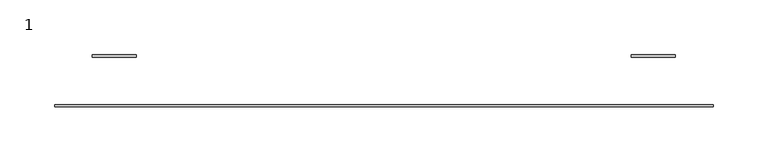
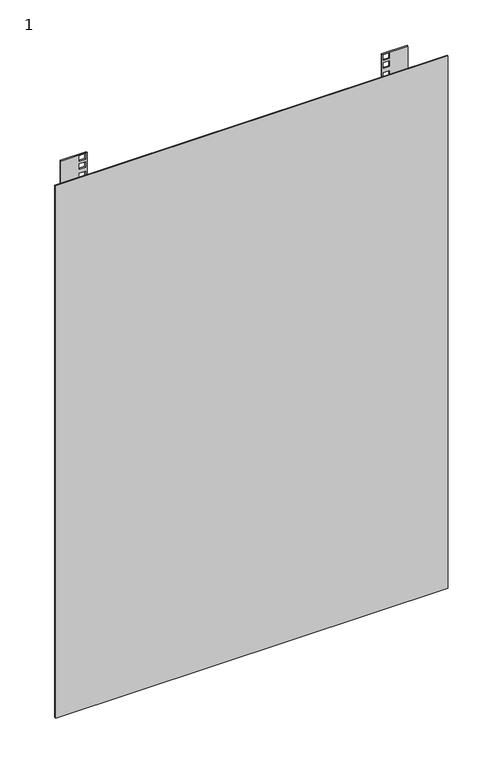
"""IFC4 building model written with IfcOpenShell, lengths in millimetres: proxy geometry, 1 : 18U 600мм металлическая дверь."""

import ifcopenshell
import ifcopenshell.guid

model = None  # the IFC model being written
_history = None  # IfcOwnerHistory: only IFC2X3 demands one
_inside = {}  # id of a spatial element -> (the spatial element, [elements in it])
_under = {}  # id of a project, library or spatial element -> (it, [spatial elements below it])
_declared = {}  # id of a project -> (the project, [libraries it declares])
_typed = {}  # id of a type object -> (the type object, [elements of that type])
_made_of = {}  # id of a material, layer set ... -> (it, [elements and type objects made of it])


def new_model(schema):
    """Start an empty IFC model of exactly this schema.

    Asked for "IFC4X3", IfcOpenShell would pick the latest addendum, in which some entities
    have other attributes; the version numbers below select the first issue.
    IFC2X3 requires an IfcOwnerHistory on every rooted entity: one is made here for all.
    """
    global model, _history
    if schema == "IFC4X3":
        model = ifcopenshell.file(schema_version=(4, 3, 0, 0))
    else:
        model = ifcopenshell.file(schema=schema)
    _inside.clear()
    _under.clear()
    _declared.clear()
    _typed.clear()
    _made_of.clear()
    _history = None
    if model.schema == "IFC2X3":
        org = make("IfcOrganization", Name="unknown")
        user = make(
            "IfcPersonAndOrganization",
            ThePerson=make("IfcPerson", FamilyName="unknown"),
            TheOrganization=org,
        )
        app = make(
            "IfcApplication",
            ApplicationDeveloper=org,
            Version="unknown",
            ApplicationFullName="unknown",
            ApplicationIdentifier="unknown",
        )
        _history = make(
            "IfcOwnerHistory",
            OwningUser=user,
            OwningApplication=app,
            ChangeAction="ADDED",
            CreationDate=0,
        )
    return model


def make(cls, **values):
    """One entity of the class cls with the attributes given. An attribute that is None is left unset."""
    return model.create_entity(
        cls, **{name: value for name, value in values.items() if value is not None}
    )


def rooted(cls, **values):
    """An entity with a GlobalId (a new one), such as an element, a storey or a relation."""
    return make(cls, GlobalId=ifcopenshell.guid.new(), OwnerHistory=_history, **values)


def si_unit(unit_type, name, prefix=None):
    """IfcSIUnit, for example si_unit("LENGTHUNIT", "METRE", prefix="MILLI")."""
    return make("IfcSIUnit", UnitType=unit_type, Prefix=prefix, Name=name)


def assignment(units):
    """IfcUnitAssignment: the units of a project."""
    return None if units is None else make("IfcUnitAssignment", Units=units)


def point(xyz):
    """IfcCartesianPoint."""
    return None if xyz is None else make("IfcCartesianPoint", Coordinates=xyz)


def direction(xyz):
    """IfcDirection."""
    return None if xyz is None else make("IfcDirection", DirectionRatios=xyz)


def frame(location, z_axis=None, x_axis=None):
    """IfcAxis2Placement3D, a coordinate frame: its origin and axes. An axis left out is left unset."""
    return make(
        "IfcAxis2Placement3D",
        Location=point(location),
        Axis=direction(z_axis),
        RefDirection=direction(x_axis),
    )


def origin():
    """The frame at (0, 0, 0) with its axes left unset."""
    return frame((0.0, 0.0, 0.0))


def place(relative_to, where):
    """IfcLocalPlacement: puts the frame where relative to a parent placement (None: the world)."""
    return make(
        "IfcLocalPlacement", PlacementRelTo=relative_to, RelativePlacement=where
    )


def context(
    kind, dimensions, precision=None, world=None, true_north=None, identifier=None
):
    """IfcGeometricRepresentationContext, for example the 3D "Model" context."""
    return make(
        "IfcGeometricRepresentationContext",
        ContextIdentifier=identifier,
        ContextType=kind,
        CoordinateSpaceDimension=dimensions,
        Precision=precision,
        WorldCoordinateSystem=world,
        TrueNorth=true_north,
    )


def project(units=None, contexts=None):
    """IfcProject with its units and contexts."""
    return rooted(
        "IfcProject",
        Name="project",
        RepresentationContexts=contexts,
        UnitsInContext=assignment(units),
    )


def spatial(cls, under=None, at=None, **own):
    """A site, building, storey or space (cls), placed at a placement, below another one or the project."""
    s = rooted(cls, ObjectPlacement=at, **own)
    if under is not None:
        _under.setdefault(under.id(), (under, []))[1].append(s)
    return s


def polyline(points):
    """IfcPolyline through the points."""
    return make("IfcPolyline", Points=[point(p) for p in points])


def outline(outer, holes=None, kind="AREA"):
    """IfcArbitraryClosedProfileDef: a profile drawn as a closed curve; with holes, ...WithVoids."""
    if holes is None:
        return make("IfcArbitraryClosedProfileDef", ProfileType=kind, OuterCurve=outer)
    return make(
        "IfcArbitraryProfileDefWithVoids",
        ProfileType=kind,
        OuterCurve=outer,
        InnerCurves=holes,
    )


def extrude(swept, where, along, depth):
    """IfcExtrudedAreaSolid: the profile swept, set in the frame where, extruded along a direction by depth."""
    return make(
        "IfcExtrudedAreaSolid",
        SweptArea=swept,
        Position=where,
        ExtrudedDirection=direction(along),
        Depth=depth,
    )


def shape(context_of_items, identifier, shape_type, items):
    """IfcShapeRepresentation: the items that make up one representation, for example the "Body"."""
    return make(
        "IfcShapeRepresentation",
        ContextOfItems=context_of_items,
        RepresentationIdentifier=identifier,
        RepresentationType=shape_type,
        Items=items,
    )


def source(mapping_origin, context_of_items, identifier, shape_type, items):
    """IfcRepresentationMap: a shape defined once, which mapped items show again and again."""
    return make(
        "IfcRepresentationMap",
        MappingOrigin=mapping_origin,
        MappedRepresentation=shape(context_of_items, identifier, shape_type, items),
    )


def transform(
    local_origin,
    x_axis=None,
    y_axis=None,
    z_axis=None,
    scale=None,
    scale2=None,
    scale3=None,
    uniform=True,
):
    """IfcCartesianTransformationOperator3D, or its non-uniform kind. x_axis, y_axis, z_axis: its Axis1, 2, 3."""
    if uniform:
        return make(
            "IfcCartesianTransformationOperator3D",
            Axis1=direction(x_axis),
            Axis2=direction(y_axis),
            LocalOrigin=point(local_origin),
            Scale=scale,
            Axis3=direction(z_axis),
        )
    return make(
        "IfcCartesianTransformationOperator3DnonUniform",
        Axis1=direction(x_axis),
        Axis2=direction(y_axis),
        LocalOrigin=point(local_origin),
        Scale=scale,
        Axis3=direction(z_axis),
        Scale2=scale2,
        Scale3=scale3,
    )


def mapped(mapping_source, mapping_target):
    """IfcMappedItem: shows the shape of a source again, moved by a transform."""
    return make(
        "IfcMappedItem", MappingSource=mapping_source, MappingTarget=mapping_target
    )


def made_of(thing, what):
    """Note that an element or type object is made of a material, layer set ...; save() writes the relation."""
    if what is not None:
        _made_of.setdefault(what.id(), (what, []))[1].append(thing)
    return thing


def element(
    cls,
    number,
    at=None,
    inside=None,
    cuts=None,
    type_object=None,
    material=None,
    context=None,
    identifier="Body",
    shape_type=None,
    held_by="IfcProductDefinitionShape",
    body=None,
    shapes=None,
    **own,
):
    """One element of the class cls, such as IfcWall. Its Tag is "e" and its number.

    at: its placement. inside: the storey or other place that contains it. cuts: it is an
    opening in that element (IfcRelVoidsElement). A single representation is given by context,
    identifier, shape_type and body (its items); several are given by shapes. held_by: the class
    of the entity that holds the representations. save() writes the other relations.
    """
    e = rooted(cls, Tag="e%d" % number, ObjectPlacement=at, **own)
    if body is not None:
        shapes = [shape(context, identifier, shape_type, body)]
    if shapes is not None:
        e.Representation = make(held_by, Representations=shapes)
    if inside is not None:
        _inside.setdefault(inside.id(), (inside, []))[1].append(e)
    if cuts is not None:
        rooted(
            "IfcRelVoidsElement", RelatingBuildingElement=cuts, RelatedOpeningElement=e
        )
    if type_object is not None:
        _typed.setdefault(type_object.id(), (type_object, []))[1].append(e)
    return made_of(e, material)


def aggregate(whole, parts):
    """IfcRelAggregates: a whole, such as a stair, and the parts it consists of."""
    return rooted("IfcRelAggregates", RelatingObject=whole, RelatedObjects=parts)


def save(model, path):
    """Write the relations noted so far, then the file.

    IfcRelAggregates (storeys below a building ...), IfcRelContainedInSpatialStructure (elements
    in a storey), IfcRelDefinesByType, IfcRelAssociatesMaterial and IfcRelDeclares: one each for
    every whole, place, type object, material and project.
    """
    for whole, parts in _under.values():
        aggregate(whole, parts)
    for where, things in _inside.values():
        rooted(
            "IfcRelContainedInSpatialStructure",
            RelatedElements=things,
            RelatingStructure=where,
        )
    for kind, things in _typed.values():
        rooted("IfcRelDefinesByType", RelatedObjects=things, RelatingType=kind)
    for what, things in _made_of.values():
        rooted("IfcRelAssociatesMaterial", RelatedObjects=things, RelatingMaterial=what)
    for by, libraries in _declared.values():
        rooted("IfcRelDeclares", RelatingContext=by, RelatedDefinitions=libraries)
    model.write(path)


def proxy_1_bff867b1(model_context):
    return source(origin(), model_context, "Body", "SweptSolid", [
        extrude(outline(polyline([(900.4675, 265.3), (900.4675, 225.3), (20.4675, 225.3), (20.4675, 265.3), (900.4675, 265.3)]), holes=[polyline([(55.0175, 227.55), (55.0175, 237.05), (46.0675, 237.05), (46.0675, 227.55), (55.0175, 227.55)]), polyline([(70.6675, 227.55), (70.6675, 237.05), (61.7175, 237.05), (61.7175, 227.55), (70.6675, 227.55)]), polyline([(86.3175, 227.55), (86.3175, 237.05), (77.3675, 237.05), (77.3675, 227.55), (86.3175, 227.55)]), polyline([(99.4675, 237.05), (90.5175, 237.05), (90.5175, 227.55), (99.4675, 227.55), (99.4675, 237.05)]), polyline([(115.1175, 237.05), (106.1675, 237.05), (106.1675, 227.55), (115.1175, 227.55), (115.1175, 237.05)]), polyline([(130.7675, 237.05), (121.8175, 237.05), (121.8175, 227.55), (130.7675, 227.55), (130.7675, 237.05)]), polyline([(143.9175, 237.05), (134.9675, 237.05), (134.9675, 227.55), (143.9175, 227.55), (143.9175, 237.05)]), polyline([(159.5675, 237.05), (150.6175, 237.05), (150.6175, 227.55), (159.5675, 227.55), (159.5675, 237.05)]), polyline([(175.2175, 237.05), (166.2675, 237.05), (166.2675, 227.55), (175.2175, 227.55), (175.2175, 237.05)]), polyline([(188.3675, 237.05), (179.4175, 237.05), (179.4175, 227.55), (188.3675, 227.55), (188.3675, 237.05)]), polyline([(204.0175, 237.05), (195.0675, 237.05), (195.0675, 227.55), (204.0175, 227.55), (204.0175, 237.05)]), polyline([(219.6675, 237.05), (210.7175, 237.05), (210.7175, 227.55), (219.6675, 227.55), (219.6675, 237.05)]), polyline([(232.8175, 237.05), (223.8675, 237.05), (223.8675, 227.55), (232.8175, 227.55), (232.8175, 237.05)]), polyline([(248.4675, 237.05), (239.5175, 237.05), (239.5175, 227.55), (248.4675, 227.55), (248.4675, 237.05)]), polyline([(264.1175, 237.05), (255.1675, 237.05), (255.1675, 227.55), (264.1175, 227.55), (264.1175, 237.05)]), polyline([(277.2675, 237.05), (268.3175, 237.05), (268.3175, 227.55), (277.2675, 227.55), (277.2675, 237.05)]), polyline([(292.9175, 237.05), (283.9675, 237.05), (283.9675, 227.55), (292.9175, 227.55), (292.9175, 237.05)]), polyline([(308.5675, 237.05), (299.6175, 237.05), (299.6175, 227.55), (308.5675, 227.55), (308.5675, 237.05)]), polyline([(321.7175, 237.05), (312.7675, 237.05), (312.7675, 227.55), (321.7175, 227.55), (321.7175, 237.05)]), polyline([(337.3675, 237.05), (328.4175, 237.05), (328.4175, 227.55), (337.3675, 227.55), (337.3675, 237.05)]), polyline([(353.0175, 237.05), (344.0675, 237.05), (344.0675, 227.55), (353.0175, 227.55), (353.0175, 237.05)]), polyline([(366.1675, 237.05), (357.2175, 237.05), (357.2175, 227.55), (366.1675, 227.55), (366.1675, 237.05)]), polyline([(381.8175, 237.05), (372.8675, 237.05), (372.8675, 227.55), (381.8175, 227.55), (381.8175, 237.05)]), polyline([(397.4675, 237.05), (388.5175, 237.05), (388.5175, 227.55), (397.4675, 227.55), (397.4675, 237.05)]), polyline([(410.6175, 237.05), (401.6675, 237.05), (401.6675, 227.55), (410.6175, 227.55), (410.6175, 237.05)]), polyline([(426.2675, 237.05), (417.3175, 237.05), (417.3175, 227.55), (426.2675, 227.55), (426.2675, 237.05)]), polyline([(441.9175, 237.05), (432.9675, 237.05), (432.9675, 227.55), (441.9175, 227.55), (441.9175, 237.05)]), polyline([(455.0675, 237.05), (446.1175, 237.05), (446.1175, 227.55), (455.0675, 227.55), (455.0675, 237.05)]), polyline([(470.7175, 237.05), (461.7675, 237.05), (461.7675, 227.55), (470.7175, 227.55), (470.7175, 237.05)]), polyline([(486.3675, 237.05), (477.4175, 237.05), (477.4175, 227.55), (486.3675, 227.55), (486.3675, 237.05)]), polyline([(499.5175, 237.05), (490.5675, 237.05), (490.5675, 227.55), (499.5175, 227.55), (499.5175, 237.05)]), polyline([(515.1675, 237.05), (506.2175, 237.05), (506.2175, 227.55), (515.1675, 227.55), (515.1675, 237.05)]), polyline([(530.8175, 237.05), (521.8675, 237.05), (521.8675, 227.55), (530.8175, 227.55), (530.8175, 237.05)]), polyline([(543.9675, 237.05), (535.0175, 237.05), (535.0175, 227.55), (543.9675, 227.55), (543.9675, 237.05)]), polyline([(559.6175, 237.05), (550.6675, 237.05), (550.6675, 227.55), (559.6175, 227.55), (559.6175, 237.05)]), polyline([(575.2675, 237.05), (566.3175, 237.05), (566.3175, 227.55), (575.2675, 227.55), (575.2675, 237.05)]), polyline([(588.4175, 237.05), (579.4675, 237.05), (579.4675, 227.55), (588.4175, 227.55), (588.4175, 237.05)]), polyline([(604.0675, 237.05), (595.1175, 237.05), (595.1175, 227.55), (604.0675, 227.55), (604.0675, 237.05)]), polyline([(619.7175, 237.05), (610.7675, 237.05), (610.7675, 227.55), (619.7175, 227.55), (619.7175, 237.05)]), polyline([(632.8675, 237.05), (623.9175, 237.05), (623.9175, 227.55), (632.8675, 227.55), (632.8675, 237.05)]), polyline([(648.5175, 237.05), (639.5675, 237.05), (639.5675, 227.55), (648.5175, 227.55), (648.5175, 237.05)]), polyline([(664.1675, 237.05), (655.2175, 237.05), (655.2175, 227.55), (664.1675, 227.55), (664.1675, 237.05)]), polyline([(677.3175, 237.05), (668.3675, 237.05), (668.3675, 227.55), (677.3175, 227.55), (677.3175, 237.05)]), polyline([(692.9675, 237.05), (684.0175, 237.05), (684.0175, 227.55), (692.9675, 227.55), (692.9675, 237.05)]), polyline([(708.6175, 237.05), (699.6675, 237.05), (699.6675, 227.55), (708.6175, 227.55), (708.6175, 237.05)]), polyline([(721.7675, 237.05), (712.8175, 237.05), (712.8175, 227.55), (721.7675, 227.55), (721.7675, 237.05)]), polyline([(737.4175, 237.05), (728.4675, 237.05), (728.4675, 227.55), (737.4175, 227.55), (737.4175, 237.05)]), polyline([(753.0675, 237.05), (744.1175, 237.05), (744.1175, 227.55), (753.0675, 227.55), (753.0675, 237.05)]), polyline([(766.2175, 237.05), (757.2675, 237.05), (757.2675, 227.55), (766.2175, 227.55), (766.2175, 237.05)]), polyline([(781.8675, 237.05), (772.9175, 237.05), (772.9175, 227.55), (781.8675, 227.55), (781.8675, 237.05)]), polyline([(797.5175, 237.05), (788.5675, 237.05), (788.5675, 227.55), (797.5175, 227.55), (797.5175, 237.05)]), polyline([(810.6675, 237.05), (801.7175, 237.05), (801.7175, 227.55), (810.6675, 227.55), (810.6675, 237.05)]), polyline([(826.3175, 237.05), (817.3675, 237.05), (817.3675, 227.55), (826.3175, 227.55), (826.3175, 237.05)]), polyline([(841.9675, 237.05), (833.0175, 237.05), (833.0175, 227.55), (841.9675, 227.55), (841.9675, 237.05)]), polyline([(855.1175, 237.05), (846.1675, 237.05), (846.1675, 227.55), (855.1175, 227.55), (855.1175, 237.05)]), polyline([(870.7675, 237.05), (861.8175, 237.05), (861.8175, 227.55), (870.7675, 227.55), (870.7675, 237.05)]), polyline([(886.4175, 237.05), (877.4675, 237.05), (877.4675, 227.55), (886.4175, 227.55), (886.4175, 237.05)]), polyline([(899.5675, 237.05), (890.6175, 237.05), (890.6175, 227.55), (899.5675, 227.55), (899.5675, 237.05)])]), frame((0.0, -254.6777479, 0.0), z_axis=(0.0, 1.0, 0.0), x_axis=(0.0, 0.0, 1.0)), (0.0, 0.0, 1.0), 2.0),
        extrude(outline(polyline([(900.4675, -225.7), (900.4675, -265.7), (20.4675, -265.7), (20.4675, -225.7), (900.4675, -225.7)]), holes=[polyline([(55.0175, -237.45), (55.0175, -227.95), (46.0675, -227.95), (46.0675, -237.45), (55.0175, -237.45)]), polyline([(70.6675, -237.45), (70.6675, -227.95), (61.7175, -227.95), (61.7175, -237.45), (70.6675, -237.45)]), polyline([(86.3175, -237.45), (86.3175, -227.95), (77.3675, -227.95), (77.3675, -237.45), (86.3175, -237.45)]), polyline([(90.5175, -237.45), (99.4675, -237.45), (99.4675, -227.95), (90.5175, -227.95), (90.5175, -237.45)]), polyline([(106.1675, -237.45), (115.1175, -237.45), (115.1175, -227.95), (106.1675, -227.95), (106.1675, -237.45)]), polyline([(121.8175, -237.45), (130.7675, -237.45), (130.7675, -227.95), (121.8175, -227.95), (121.8175, -237.45)]), polyline([(134.9675, -237.45), (143.9175, -237.45), (143.9175, -227.95), (134.9675, -227.95), (134.9675, -237.45)]), polyline([(150.6175, -237.45), (159.5675, -237.45), (159.5675, -227.95), (150.6175, -227.95), (150.6175, -237.45)]), polyline([(166.2675, -237.45), (175.2175, -237.45), (175.2175, -227.95), (166.2675, -227.95), (166.2675, -237.45)]), polyline([(179.4175, -237.45), (188.3675, -237.45), (188.3675, -227.95), (179.4175, -227.95), (179.4175, -237.45)]), polyline([(195.0675, -237.45), (204.0175, -237.45), (204.0175, -227.95), (195.0675, -227.95), (195.0675, -237.45)]), polyline([(210.7175, -237.45), (219.6675, -237.45), (219.6675, -227.95), (210.7175, -227.95), (210.7175, -237.45)]), polyline([(223.8675, -237.45), (232.8175, -237.45), (232.8175, -227.95), (223.8675, -227.95), (223.8675, -237.45)]), polyline([(239.5175, -237.45), (248.4675, -237.45), (248.4675, -227.95), (239.5175, -227.95), (239.5175, -237.45)]), polyline([(255.1675, -237.45), (264.1175, -237.45), (264.1175, -227.95), (255.1675, -227.95), (255.1675, -237.45)]), polyline([(268.3175, -237.45), (277.2675, -237.45), (277.2675, -227.95), (268.3175, -227.95), (268.3175, -237.45)]), polyline([(283.9675, -237.45), (292.9175, -237.45), (292.9175, -227.95), (283.9675, -227.95), (283.9675, -237.45)]), polyline([(299.6175, -237.45), (308.5675, -237.45), (308.5675, -227.95), (299.6175, -227.95), (299.6175, -237.45)]), polyline([(312.7675, -237.45), (321.7175, -237.45), (321.7175, -227.95), (312.7675, -227.95), (312.7675, -237.45)]), polyline([(328.4175, -237.45), (337.3675, -237.45), (337.3675, -227.95), (328.4175, -227.95), (328.4175, -237.45)]), polyline([(344.0675, -237.45), (353.0175, -237.45), (353.0175, -227.95), (344.0675, -227.95), (344.0675, -237.45)]), polyline([(357.2175, -237.45), (366.1675, -237.45), (366.1675, -227.95), (357.2175, -227.95), (357.2175, -237.45)]), polyline([(372.8675, -237.45), (381.8175, -237.45), (381.8175, -227.95), (372.8675, -227.95), (372.8675, -237.45)]), polyline([(388.5175, -237.45), (397.4675, -237.45), (397.4675, -227.95), (388.5175, -227.95), (388.5175, -237.45)]), polyline([(401.6675, -237.45), (410.6175, -237.45), (410.6175, -227.95), (401.6675, -227.95), (401.6675, -237.45)]), polyline([(417.3175, -237.45), (426.2675, -237.45), (426.2675, -227.95), (417.3175, -227.95), (417.3175, -237.45)]), polyline([(432.9675, -237.45), (441.9175, -237.45), (441.9175, -227.95), (432.9675, -227.95), (432.9675, -237.45)]), polyline([(446.1175, -237.45), (455.0675, -237.45), (455.0675, -227.95), (446.1175, -227.95), (446.1175, -237.45)]), polyline([(461.7675, -237.45), (470.7175, -237.45), (470.7175, -227.95), (461.7675, -227.95), (461.7675, -237.45)]), polyline([(477.4175, -237.45), (486.3675, -237.45), (486.3675, -227.95), (477.4175, -227.95), (477.4175, -237.45)]), polyline([(490.5675, -237.45), (499.5175, -237.45), (499.5175, -227.95), (490.5675, -227.95), (490.5675, -237.45)]), polyline([(506.2175, -237.45), (515.1675, -237.45), (515.1675, -227.95), (506.2175, -227.95), (506.2175, -237.45)]), polyline([(521.8675, -237.45), (530.8175, -237.45), (530.8175, -227.95), (521.8675, -227.95), (521.8675, -237.45)]), polyline([(535.0175, -237.45), (543.9675, -237.45), (543.9675, -227.95), (535.0175, -227.95), (535.0175, -237.45)]), polyline([(550.6675, -237.45), (559.6175, -237.45), (559.6175, -227.95), (550.6675, -227.95), (550.6675, -237.45)]), polyline([(566.3175, -237.45), (575.2675, -237.45), (575.2675, -227.95), (566.3175, -227.95), (566.3175, -237.45)]), polyline([(579.4675, -237.45), (588.4175, -237.45), (588.4175, -227.95), (579.4675, -227.95), (579.4675, -237.45)]), polyline([(595.1175, -237.45), (604.0675, -237.45), (604.0675, -227.95), (595.1175, -227.95), (595.1175, -237.45)]), polyline([(610.7675, -237.45), (619.7175, -237.45), (619.7175, -227.95), (610.7675, -227.95), (610.7675, -237.45)]), polyline([(623.9175, -237.45), (632.8675, -237.45), (632.8675, -227.95), (623.9175, -227.95), (623.9175, -237.45)]), polyline([(639.5675, -237.45), (648.5175, -237.45), (648.5175, -227.95), (639.5675, -227.95), (639.5675, -237.45)]), polyline([(655.2175, -237.45), (664.1675, -237.45), (664.1675, -227.95), (655.2175, -227.95), (655.2175, -237.45)]), polyline([(668.3675, -237.45), (677.3175, -237.45), (677.3175, -227.95), (668.3675, -227.95), (668.3675, -237.45)]), polyline([(684.0175, -237.45), (692.9675, -237.45), (692.9675, -227.95), (684.0175, -227.95), (684.0175, -237.45)]), polyline([(699.6675, -237.45), (708.6175, -237.45), (708.6175, -227.95), (699.6675, -227.95), (699.6675, -237.45)]), polyline([(712.8175, -237.45), (721.7675, -237.45), (721.7675, -227.95), (712.8175, -227.95), (712.8175, -237.45)]), polyline([(728.4675, -237.45), (737.4175, -237.45), (737.4175, -227.95), (728.4675, -227.95), (728.4675, -237.45)]), polyline([(744.1175, -237.45), (753.0675, -237.45), (753.0675, -227.95), (744.1175, -227.95), (744.1175, -237.45)]), polyline([(757.2675, -237.45), (766.2175, -237.45), (766.2175, -227.95), (757.2675, -227.95), (757.2675, -237.45)]), polyline([(772.9175, -237.45), (781.8675, -237.45), (781.8675, -227.95), (772.9175, -227.95), (772.9175, -237.45)]), polyline([(788.5675, -237.45), (797.5175, -237.45), (797.5175, -227.95), (788.5675, -227.95), (788.5675, -237.45)]), polyline([(801.7175, -237.45), (810.6675, -237.45), (810.6675, -227.95), (801.7175, -227.95), (801.7175, -237.45)]), polyline([(817.3675, -237.45), (826.3175, -237.45), (826.3175, -227.95), (817.3675, -227.95), (817.3675, -237.45)]), polyline([(833.0175, -237.45), (841.9675, -237.45), (841.9675, -227.95), (833.0175, -227.95), (833.0175, -237.45)]), polyline([(846.1675, -237.45), (855.1175, -237.45), (855.1175, -227.95), (846.1675, -227.95), (846.1675, -237.45)]), polyline([(861.8175, -237.45), (870.7675, -237.45), (870.7675, -227.95), (861.8175, -227.95), (861.8175, -237.45)]), polyline([(877.4675, -237.45), (886.4175, -237.45), (886.4175, -227.95), (877.4675, -227.95), (877.4675, -237.45)]), polyline([(890.6175, -237.45), (899.5675, -237.45), (899.5675, -227.95), (890.6175, -227.95), (890.6175, -237.45)])]), frame((0.0, -254.6777479, 0.0), z_axis=(0.0, 1.0, 0.0), x_axis=(0.0, 0.0, 1.0)), (0.0, 0.0, 1.0), 2.0),
        extrude(outline(polyline([(-300.0, -298.0), (300.0, -298.0), (300.0, -300.0), (-300.0, -300.0), (-300.0, -298.0)])), frame((0.0, 0.0, 40.0), z_axis=(0.0, 0.0, 1.0), x_axis=(1.0, 0.0, 0.0)), (0.0, 0.0, 1.0), 860.0),
    ])


if __name__ == "__main__":
    model = new_model("IFC4")
    model_context = context("Model", 3, world=origin())
    ifc_project = project(units=[si_unit("LENGTHUNIT", "METRE", prefix="MILLI")], contexts=[model_context])
    site = spatial("IfcSite", under=ifc_project)
    building = spatial("IfcBuilding", under=site)
    placement = place(None, origin())
    proxy_1_shape = proxy_1_bff867b1(model_context)
    element("IfcBuildingElementProxy", 1, Name="1 : 18U 600мм металлическая дверь", ObjectType="1 : 18U 600мм металлическая дверь", at=placement, inside=building, context=model_context, shape_type="MappedRepresentation", body=[
        mapped(proxy_1_shape, transform((0.0, 0.0, 0.0), x_axis=(1.0, 0.0, 0.0), y_axis=(0.0, 1.0, 0.0), z_axis=(0.0, 0.0, 1.0))),
    ])
    save(model, "model.ifc")
